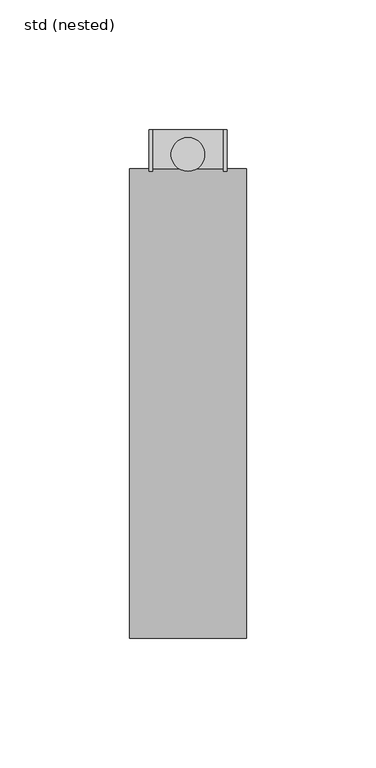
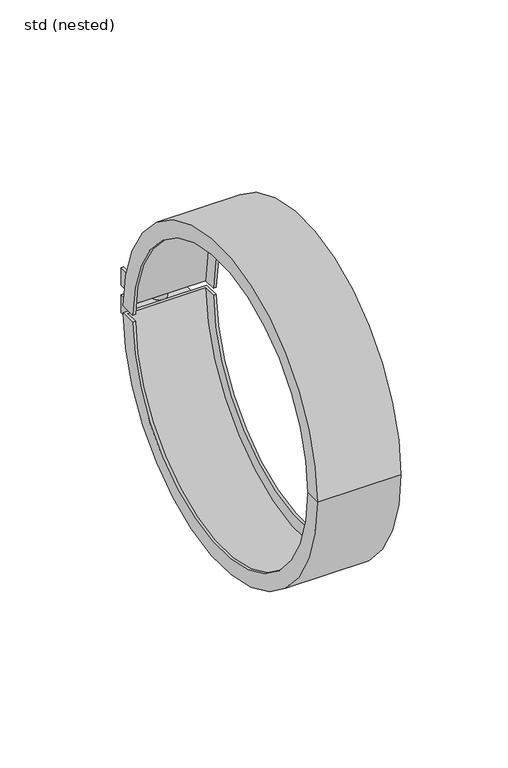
"""IFC4 building model written with IfcOpenShell, lengths in millimetres: pipe fitting geometry, ZZZ_do not use_PIF_ST_UN_ACO pipe socket clamp_ACO : std (nested)."""

from ifc_helpers import new_model, si_unit, point, frame, frame_2d, origin, place, context, project, spatial, polyline, circle_curve, trimmed, segment, composite_curve, outline, extrude, source, transform, mapped, element, save
from ifc_brep_helpers import plane_surface, cylinder_surface, revolved_surface, advanced_brep


def std_nested_b7669297(model_context):
    return source(origin(), model_context, "Body", "SolidModel", [
        advanced_brep(
        [(-22.5, -90.5, 0.0), (-22.5, -81.75, 0.0), (-22.5, 81.7255315, -2.0), (-22.5, 90.4778979, -2.0), (-22.5, 90.4778979, 2.0), (-22.5, 81.7255315, 2.0), (-21.0, -81.75, 0.0), (-21.0, 81.7255315, -2.0), (-21.0, 81.7255315, 2.0), (-21.0, -89.0, 0.0), (-21.0, 88.9775253, -2.0), (-21.0, 88.9775253, 2.0), (21.0, -89.0, 0.0), (21.0, 88.9775253, -2.0), (21.0, 88.9775253, 2.0), (21.0, -81.75, 0.0), (21.0, 81.7255315, -2.0), (21.0, 81.7255315, 2.0), (22.5, -81.75, 0.0), (22.5, 81.7255315, -2.0), (22.5, 81.7255315, 2.0), (22.5, -90.5, 0.0), (22.5, 90.4778979, -2.0), (22.5, 90.4778979, 2.0)],
        [
            (0, 1),
            (1, 2, circle_curve(frame((-22.5, 0.0, 0.0), z_axis=(1.0, 0.0, 0.0), x_axis=(0.0, 1.0, 0.0)), 81.75)),
            (2, 3),
            (3, 0, circle_curve(frame((-22.5, 0.0, 0.0), z_axis=(-1.0, 0.0, 0.0), x_axis=(0.0, 1.0, 0.0)), 90.5)),
            (0, 4, circle_curve(frame((-22.5, 0.0, 0.0), z_axis=(-1.0, 0.0, 0.0), x_axis=(0.0, 1.0, 0.0)), 90.5)),
            (4, 5),
            (5, 1, circle_curve(frame((-22.5, 0.0, 0.0), z_axis=(1.0, 0.0, 0.0), x_axis=(0.0, 1.0, 0.0)), 81.75)),
            (1, 6),
            (6, 7, circle_curve(frame((-21.0, 0.0, 0.0), z_axis=(1.0, 0.0, 0.0), x_axis=(0.0, 1.0, 0.0)), 81.75)),
            (7, 2),
            (5, 8),
            (8, 6, circle_curve(frame((-21.0, 0.0, 0.0), z_axis=(1.0, 0.0, 0.0), x_axis=(0.0, 1.0, 0.0)), 81.75)),
            (6, 9),
            (9, 10, circle_curve(frame((-21.0, 0.0, 0.0), z_axis=(1.0, 0.0, 0.0), x_axis=(0.0, 1.0, 0.0)), 89.0)),
            (10, 7),
            (8, 11),
            (11, 9, circle_curve(frame((-21.0, 0.0, 0.0), z_axis=(1.0, 0.0, 0.0), x_axis=(0.0, 1.0, 0.0)), 89.0)),
            (9, 12),
            (12, 13, circle_curve(frame((21.0, 0.0, 0.0), z_axis=(1.0, 0.0, 0.0), x_axis=(0.0, 1.0, 0.0)), 89.0)),
            (13, 10),
            (11, 14),
            (14, 12, circle_curve(frame((21.0, 0.0, 0.0), z_axis=(1.0, 0.0, 0.0), x_axis=(0.0, 1.0, 0.0)), 89.0)),
            (12, 15),
            (15, 16, circle_curve(frame((21.0, 0.0, 0.0), z_axis=(1.0, 0.0, 0.0), x_axis=(0.0, 1.0, 0.0)), 81.75)),
            (16, 13),
            (14, 17),
            (17, 15, circle_curve(frame((21.0, 0.0, 0.0), z_axis=(1.0, 0.0, 0.0), x_axis=(0.0, 1.0, 0.0)), 81.75)),
            (15, 18),
            (18, 19, circle_curve(frame((22.5, 0.0, 0.0), z_axis=(1.0, 0.0, 0.0), x_axis=(0.0, 1.0, 0.0)), 81.75)),
            (19, 16),
            (17, 20),
            (20, 18, circle_curve(frame((22.5, 0.0, 0.0), z_axis=(1.0, 0.0, 0.0), x_axis=(0.0, 1.0, 0.0)), 81.75)),
            (18, 21),
            (21, 22, circle_curve(frame((22.5, 0.0, 0.0), z_axis=(1.0, 0.0, 0.0), x_axis=(0.0, 1.0, 0.0)), 90.5)),
            (22, 19),
            (20, 23),
            (23, 21, circle_curve(frame((22.5, 0.0, 0.0), z_axis=(1.0, 0.0, 0.0), x_axis=(0.0, 1.0, 0.0)), 90.5)),
            (21, 0),
            (3, 22),
            (23, 4),
        ],
        [
            plane_surface(frame((-22.5, 0.0, 0.0), z_axis=(-1.0, 0.0, 0.0), x_axis=(0.0, 1.0, 0.0))),
            revolved_surface(polyline([(-22.5, 81.75, 0.0), (-21.0, 81.75, 0.0)]), (-50.0, 0.0, 0.0), (-1.0, 0.0, 0.0)),
            plane_surface(frame((-21.0, 0.0, 0.0), z_axis=(1.0, 0.0, 0.0), x_axis=(0.0, 1.0, 0.0))),
            revolved_surface(polyline([(-21.0, 89.0, 0.0), (21.0, 89.0, 0.0)]), (-50.0, 0.0, 0.0), (-1.0, 0.0, 0.0)),
            plane_surface(frame((21.0, 0.0, 0.0), z_axis=(-1.0, 0.0, 0.0), x_axis=(0.0, 1.0, 0.0))),
            revolved_surface(polyline([(21.0, 81.75, 0.0), (22.5, 81.75, 0.0)]), (-50.0, 0.0, 0.0), (-1.0, 0.0, 0.0)),
            plane_surface(frame((22.5, 0.0, 0.0), z_axis=(1.0, 0.0, 0.0), x_axis=(0.0, 1.0, 0.0))),
            cylinder_surface(frame((-50.0, 0.0, 0.0), z_axis=(-1.0, 0.0, 0.0), x_axis=(0.0, 1.0, 0.0)), 90.5),
            plane_surface(frame((22.5, 91.5, 2.0), z_axis=(0.0, 0.0, -1.0), x_axis=(-1.0, 0.0, 0.0))),
            plane_surface(frame((22.5, 0.0, -2.0), z_axis=(0.0, 0.0, 1.0), x_axis=(-1.0, 0.0, 0.0))),
        ],
        [
            (0, [[1, 2, 3, 4]]),
            (0, [[-1, 5, 6, 7]]),
            (1, [[8, 9, 10, -2]]),
            (1, [[-8, -7, 11, 12]]),
            (2, [[13, 14, 15, -9]]),
            (2, [[-13, -12, 16, 17]]),
            (3, [[18, 19, 20, -14]]),
            (3, [[-18, -17, 21, 22]]),
            (4, [[23, 24, 25, -19]]),
            (4, [[-23, -22, 26, 27]]),
            (5, [[28, 29, 30, -24]]),
            (5, [[-28, -27, 31, 32]]),
            (6, [[33, 34, 35, -29]]),
            (6, [[-33, -32, 36, 37]]),
            (7, [[38, -4, 39, -34]]),
            (7, [[-38, -37, 40, -5]]),
            (8, [[-6, -40, -36, -31, -26, -21, -16, -11]]),
            (9, [[-3, -10, -15, -20, -25, -30, -35, -39]]),
        ],
    ),
        advanced_brep(
        [(-15.0, 105.4, -3.5), (15.0, 105.4, -3.5), (15.0, 105.4, -13.5), (13.623617, 105.4, -13.5), (13.623617, 105.4, -5.5), (-13.623617, 105.4, -5.5), (-13.623617, 105.4, -13.5), (-15.0, 105.4, -13.5), (-15.0, 88.9311531, -3.5), (15.0, 88.9311531, -3.5), (15.0, 87.9701654, -13.5), (13.623617, 87.9701654, -13.5), (13.623617, 88.8298936, -5.5), (-13.623617, 88.8298936, -5.5), (-13.623617, 87.9701654, -13.5), (-15.0, 87.9701654, -13.5)],
        [
            (0, 1),
            (1, 2),
            (2, 3),
            (3, 4),
            (4, 5),
            (5, 6),
            (6, 7),
            (7, 0),
            (0, 8),
            (8, 9),
            (9, 1),
            (9, 10, circle_curve(frame((15.0, 0.0, 0.0), z_axis=(-1.0, 0.0, 0.0), x_axis=(0.0, 1.0, 0.0)), 89.0)),
            (10, 2),
            (10, 11),
            (11, 3),
            (11, 12, circle_curve(frame((13.623617, 0.0, 0.0), z_axis=(1.0, 0.0, 0.0), x_axis=(0.0, 1.0, 0.0)), 89.0)),
            (12, 4),
            (12, 13),
            (13, 5),
            (13, 14, circle_curve(frame((-13.623617, 0.0, 0.0), z_axis=(-1.0, 0.0, 0.0), x_axis=(0.0, 1.0, 0.0)), 89.0)),
            (14, 6),
            (14, 15),
            (15, 7),
            (15, 8, circle_curve(frame((-15.0, 0.0, 0.0), z_axis=(1.0, 0.0, 0.0), x_axis=(0.0, 1.0, 0.0)), 89.0)),
        ],
        [
            plane_surface(frame((0.0, 105.4, -3.5), z_axis=(0.0, 1.0, 0.0), x_axis=(0.0, 0.0, 1.0))),
            plane_surface(frame((15.0, 0.0, -3.5), z_axis=(0.0, 0.0, 1.0), x_axis=(0.0, 1.0, 0.0))),
            plane_surface(frame((15.0, 0.0, -13.5), z_axis=(1.0, 0.0, 0.0), x_axis=(0.0, 1.0, 0.0))),
            plane_surface(frame((13.623617, 0.0, -13.5), z_axis=(0.0, 0.0, -1.0), x_axis=(0.0, 1.0, 0.0))),
            plane_surface(frame((13.623617, 0.0, -5.5), z_axis=(-1.0, 0.0, 0.0), x_axis=(0.0, 1.0, 0.0))),
            plane_surface(frame((-13.623617, 0.0, -5.5), z_axis=(0.0, 0.0, -1.0), x_axis=(0.0, 1.0, 0.0))),
            plane_surface(frame((-13.623617, 0.0, -13.5), z_axis=(1.0, 0.0, 0.0), x_axis=(0.0, 1.0, 0.0))),
            plane_surface(frame((-15.0, 0.0, -13.5), z_axis=(0.0, 0.0, -1.0), x_axis=(0.0, 1.0, 0.0))),
            plane_surface(frame((-15.0, 0.0, -3.5), z_axis=(-1.0, 0.0, 0.0), x_axis=(0.0, 1.0, 0.0))),
            revolved_surface(polyline([(-15.0, 89.0, 0.0), (15.0, 89.0, 0.0)]), (-60.75, 0.0, 0.0), (-1.0, 0.0, 0.0)),
        ],
        [
            (0, [[1, 2, 3, 4, 5, 6, 7, 8]]),
            (1, [[-1, 9, 10, 11]]),
            (2, [[-2, -11, 12, 13]]),
            (3, [[-3, -13, 14, 15]]),
            (4, [[-4, -15, 16, 17]]),
            (5, [[-5, -17, 18, 19]]),
            (6, [[-6, -19, 20, 21]]),
            (7, [[-7, -21, 22, 23]]),
            (8, [[-8, -23, 24, -9]]),
            (9, [[-10, -24, -22, -20, -18, -16, -14, -12]]),
        ],
    ),
        advanced_brep(
        [(-15.0, 105.4, 2.0), (-15.0, 105.4, 12.0), (-13.623617, 105.4, 12.0), (-13.623617, 105.4, 4.0), (13.623617, 105.4, 4.0), (13.623617, 105.4, 12.0), (15.0, 105.4, 12.0), (15.0, 105.4, 2.0), (15.0, 88.9775253, 2.0), (-15.0, 88.9775253, 2.0), (15.0, 88.1873007, 12.0), (13.623617, 88.1873007, 12.0), (13.623617, 88.9100669, 4.0), (-13.623617, 88.9100669, 4.0), (-13.623617, 88.1873007, 12.0), (-15.0, 88.1873007, 12.0)],
        [
            (0, 1),
            (1, 2),
            (2, 3),
            (3, 4),
            (4, 5),
            (5, 6),
            (6, 7),
            (7, 0),
            (7, 8),
            (8, 9),
            (9, 0),
            (6, 10),
            (10, 8, circle_curve(frame((15.0, 0.0, 0.0), z_axis=(-1.0, 0.0, 0.0), x_axis=(0.0, 1.0, 0.0)), 89.0)),
            (5, 11),
            (11, 10),
            (4, 12),
            (12, 11, circle_curve(frame((13.623617, 0.0, 0.0), z_axis=(1.0, 0.0, 0.0), x_axis=(0.0, 1.0, 0.0)), 89.0)),
            (3, 13),
            (13, 12),
            (2, 14),
            (14, 13, circle_curve(frame((-13.623617, 0.0, 0.0), z_axis=(-1.0, 0.0, 0.0), x_axis=(0.0, 1.0, 0.0)), 89.0)),
            (1, 15),
            (15, 14),
            (9, 15, circle_curve(frame((-15.0, 0.0, 0.0), z_axis=(1.0, 0.0, 0.0), x_axis=(0.0, 1.0, 0.0)), 89.0)),
        ],
        [
            plane_surface(frame((0.0, 105.4, 2.0), z_axis=(0.0, 1.0, 0.0), x_axis=(0.0, 0.0, 1.0))),
            plane_surface(frame((-15.0, 0.0, 2.0), z_axis=(0.0, 0.0, -1.0), x_axis=(0.0, 1.0, 0.0))),
            plane_surface(frame((15.0, 0.0, 2.0), z_axis=(1.0, 0.0, 0.0), x_axis=(0.0, 1.0, 0.0))),
            plane_surface(frame((15.0, 0.0, 12.0), z_axis=(0.0, 0.0, 1.0), x_axis=(0.0, 1.0, 0.0))),
            plane_surface(frame((13.623617, 0.0, 12.0), z_axis=(-1.0, 0.0, 0.0), x_axis=(0.0, 1.0, 0.0))),
            plane_surface(frame((13.623617, 0.0, 4.0), z_axis=(0.0, 0.0, 1.0), x_axis=(0.0, 1.0, 0.0))),
            plane_surface(frame((-13.623617, 0.0, 4.0), z_axis=(1.0, 0.0, 0.0), x_axis=(0.0, 1.0, 0.0))),
            plane_surface(frame((-13.623617, 0.0, 12.0), z_axis=(0.0, 0.0, 1.0), x_axis=(0.0, 1.0, 0.0))),
            plane_surface(frame((-15.0, 0.0, 12.0), z_axis=(-1.0, 0.0, 0.0), x_axis=(0.0, 1.0, 0.0))),
            revolved_surface(polyline([(-15.0, 89.0, 0.0), (15.0, 89.0, 0.0)]), (-60.75, 0.0, 0.0), (-1.0, 0.0, 0.0)),
        ],
        [
            (0, [[1, 2, 3, 4, 5, 6, 7, 8]]),
            (1, [[-8, 9, 10, 11]]),
            (2, [[-7, 12, 13, -9]]),
            (3, [[-6, 14, 15, -12]]),
            (4, [[-5, 16, 17, -14]]),
            (5, [[-4, 18, 19, -16]]),
            (6, [[-3, 20, 21, -18]]),
            (7, [[-2, 22, 23, -20]]),
            (8, [[-1, -11, 24, -22]]),
            (9, [[-10, -13, -15, -17, -19, -21, -23, -24]]),
        ],
    ),
        extrude(outline(composite_curve([segment(trimmed(circle_curve(frame_2d((0.0, 95.9)), 6.5), [point((0.0, 89.4))], [point((0.0, 102.4))], False, "CARTESIAN"), True, "CONTINUOUS"), segment(trimmed(circle_curve(frame_2d((0.0, 95.9)), 6.5), [point((0.0, 102.4))], [point((0.0, 89.4))], False, "CARTESIAN"), True, "CONTINUOUS")], self_intersect=False)), frame((0.0, 0.0, 4.0), z_axis=(0.0, 0.0, 1.0), x_axis=(1.0, 0.0, 0.0)), (0.0, 0.0, 1.0), 8.0),
        extrude(outline(composite_curve([segment(trimmed(circle_curve(frame_2d((0.0, 95.9)), 4.0), [point((-4.0, 95.9))], [point((4.0, 95.9))], False, "CARTESIAN"), True, "CONTINUOUS"), segment(trimmed(circle_curve(frame_2d((0.0, 95.9)), 4.0), [point((4.0, 95.9))], [point((-4.0, 95.9))], False, "CARTESIAN"), True, "CONTINUOUS")], self_intersect=False)), frame((0.0, 0.0, -21.0), z_axis=(0.0, 0.0, 1.0), x_axis=(1.0, 0.0, 0.0)), (0.0, 0.0, 1.0), 25.0),
    ])


if __name__ == "__main__":
    model = new_model("IFC4")
    model_context = context("Model", 3, world=origin())
    ifc_project = project(units=[si_unit("LENGTHUNIT", "METRE", prefix="MILLI")], contexts=[model_context])
    site = spatial("IfcSite", under=ifc_project)
    building = spatial("IfcBuilding", under=site)
    placement = place(None, origin())
    std_nested_shape = std_nested_b7669297(model_context)
    element("IfcPipeFitting", 1, ObjectType="ZZZ_do not use_PIF_ST_UN_ACO pipe socket clamp_ACO : std (nested)", at=placement, inside=building, context=model_context, shape_type="MappedRepresentation", body=[
        mapped(std_nested_shape, transform((0.0, 0.0, 0.0), x_axis=(1.0, 0.0, 0.0), y_axis=(0.0, 1.0, 0.0), z_axis=(0.0, 0.0, 1.0))),
    ])
    save(model, "model.ifc")
